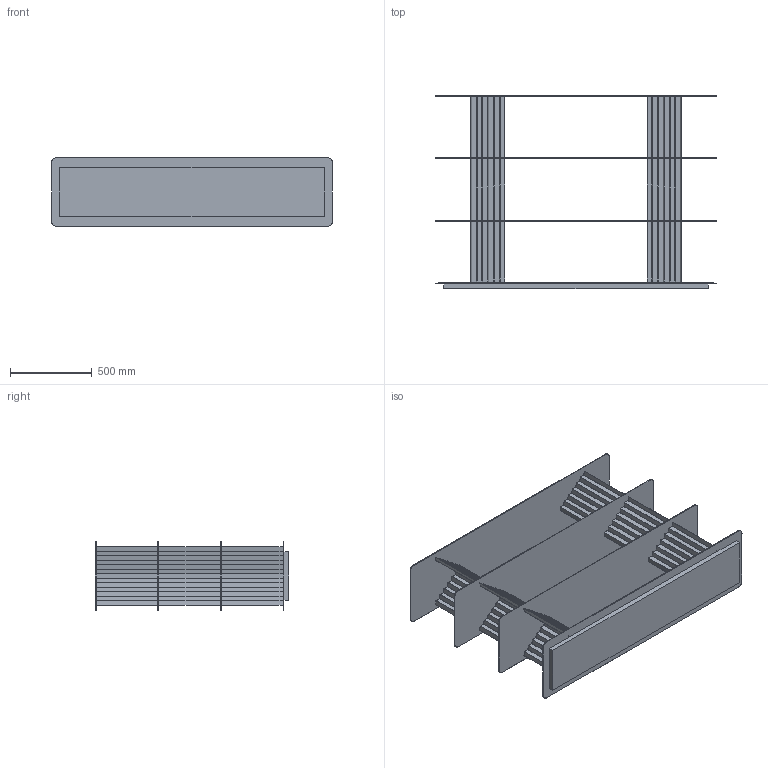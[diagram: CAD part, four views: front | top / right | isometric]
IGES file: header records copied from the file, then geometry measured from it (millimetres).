
Start section: SolidWorks IGES file using analytic representation for surfaces
Global section: file name: Z:\30-Ingenieria I+D\Proyectos\03-Plec_Shelves APO\1-sw\WEB\Arxius\PLEC SHELVES S 3 NIVELES.IGS; native system: SolidWorks 2020; preprocessor: SolidWorks 2020; author: Bernat Llonch; date: 250508.121137; units: millimetre
Bounding box: 1723 x 1187 x 420 mm (x, y, z)
Surface area: 10256101.7 mm2 (no closed solid volume)
Topology: 0 solids, 0 shells, 370 faces, 2312 edges, 2312 vertices
Faces by surface type: bspline 354, revolution 16
